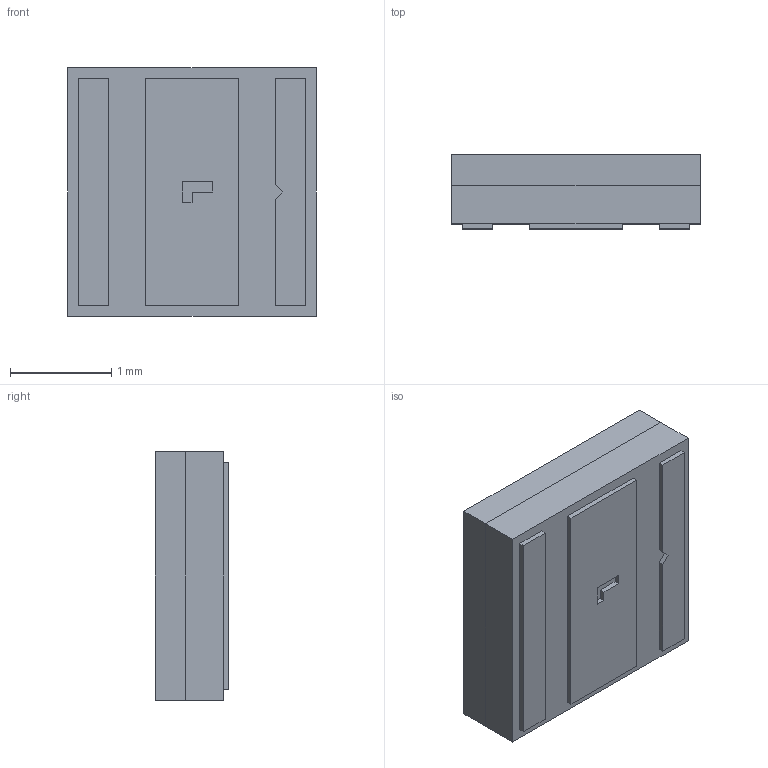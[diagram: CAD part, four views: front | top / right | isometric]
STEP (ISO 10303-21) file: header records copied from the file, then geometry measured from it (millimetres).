
FILE_DESCRIPTION (( 'STEP AP203' ), '1' );
FILE_NAME ('HF.STEP', '2024-01-18T07:47:49', ( '' ), ( '' ), 'SwSTEP 2.0', 'SolidWorks 2016', '' );
FILE_SCHEMA (( 'CONFIG_CONTROL_DESIGN' ));
Length unit declared in the file: millimetre
Products named in the file (1): HF
Bounding box: 2.45 x 0.73 x 2.45 mm (x, y, z)
Surface area: 44.6 mm2
Topology: 3 solids, 3 shells, 47 faces, 111 edges, 74 vertices
Faces by surface type: plane 47
Entity records: 1402 total; most frequent: CARTESIAN_POINT 233, ORIENTED_EDGE 222, DIRECTION 207, VECTOR 111, EDGE_CURVE 111, LINE 111, VERTEX_POINT 74, EDGE_LOOP 53
